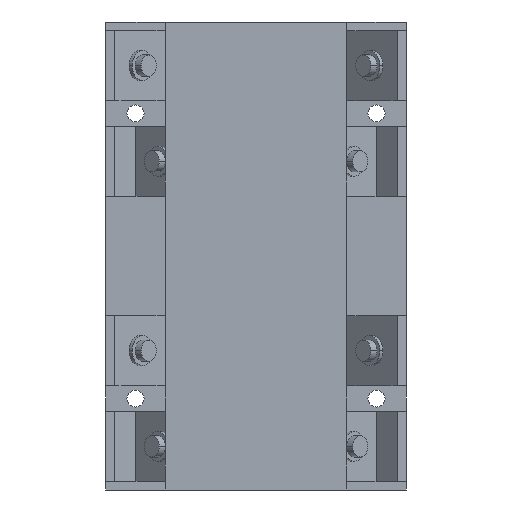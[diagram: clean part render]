
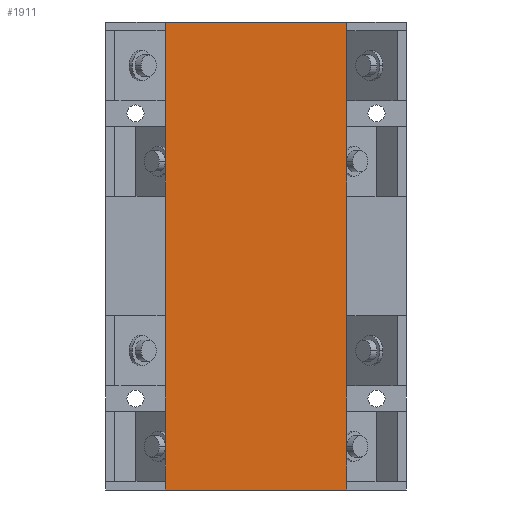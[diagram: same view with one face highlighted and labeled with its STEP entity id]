
A CAD part, front view. The second image highlights one B-rep face of the part: STEP entity #1911.
In plain terms, the highlighted planar face has unit normal (0, -1, 0).
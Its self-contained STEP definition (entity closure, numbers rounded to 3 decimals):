
#97 = EDGE_CURVE ( 'NONE', #2286, #3573, #3340, .T. ) ;
#267 = AXIS2_PLACEMENT_3D ( 'NONE', #1251, #1270, #3579 ) ;
#283 = VECTOR ( 'NONE', #2995, 1000. ) ;
#565 = ORIENTED_EDGE ( 'NONE', *, *, #1921, .F. ) ;
#773 = EDGE_CURVE ( 'NONE', #3573, #1413, #1008, .T. ) ;
#776 = DIRECTION ( 'NONE',  ( -1., 0., 0. ) ) ;
#777 = CARTESIAN_POINT ( 'NONE',  ( -11.344, 32.179, 0. ) ) ;
#958 = ORIENTED_EDGE ( 'NONE', *, *, #97, .F. ) ;
#1008 = LINE ( 'NONE', #1858, #2110 ) ;
#1009 = CARTESIAN_POINT ( 'NONE',  ( 25.304, 32.179, -110. ) ) ;
#1251 = CARTESIAN_POINT ( 'NONE',  ( 0., 32.179, -55. ) ) ;
#1270 = DIRECTION ( 'NONE',  ( 0., 1., 0. ) ) ;
#1378 = CARTESIAN_POINT ( 'NONE',  ( 31.344, 32.179, 0. ) ) ;
#1381 = ORIENTED_EDGE ( 'NONE', *, *, #773, .F. ) ;
#1390 = VECTOR ( 'NONE', #776, 1000. ) ;
#1413 = VERTEX_POINT ( 'NONE', #2029 ) ;
#1625 = CARTESIAN_POINT ( 'NONE',  ( -11.344, 32.179, -110. ) ) ;
#1858 = CARTESIAN_POINT ( 'NONE',  ( 31.344, 32.179, 0. ) ) ;
#1868 = CARTESIAN_POINT ( 'NONE',  ( -25.304, 32.179, 0. ) ) ;
#1875 = CARTESIAN_POINT ( 'NONE',  ( -11.344, 32.179, 0. ) ) ;
#1911 = ADVANCED_FACE ( 'NONE', ( #2726 ), #3547, .F. ) ;
#1921 = EDGE_CURVE ( 'NONE', #1413, #2657, #3243, .T. ) ;
#2003 = ORIENTED_EDGE ( 'NONE', *, *, #3120, .T. ) ;
#2029 = CARTESIAN_POINT ( 'NONE',  ( 31.344, 32.179, -110. ) ) ;
#2088 = EDGE_LOOP ( 'NONE', ( #958, #2003, #565, #1381 ) ) ;
#2110 = VECTOR ( 'NONE', #2130, 1000. ) ;
#2130 = DIRECTION ( 'NONE',  ( 0., 0., -1. ) ) ;
#2286 = VERTEX_POINT ( 'NONE', #1875 ) ;
#2412 = DIRECTION ( 'NONE',  ( 0., 0., -1. ) ) ;
#2657 = VERTEX_POINT ( 'NONE', #1625 ) ;
#2726 = FACE_OUTER_BOUND ( 'NONE', #2088, .T. ) ;
#2995 = DIRECTION ( 'NONE',  ( 1., 0., 0. ) ) ;
#3120 = EDGE_CURVE ( 'NONE', #2286, #2657, #3300, .T. ) ;
#3241 = VECTOR ( 'NONE', #2412, 1000. ) ;
#3243 = LINE ( 'NONE', #1009, #1390 ) ;
#3300 = LINE ( 'NONE', #777, #3241 ) ;
#3340 = LINE ( 'NONE', #1868, #283 ) ;
#3547 = PLANE ( 'NONE',  #267 ) ;
#3573 = VERTEX_POINT ( 'NONE', #1378 ) ;
#3579 = DIRECTION ( 'NONE',  ( 1., 0., 0. ) ) ;
